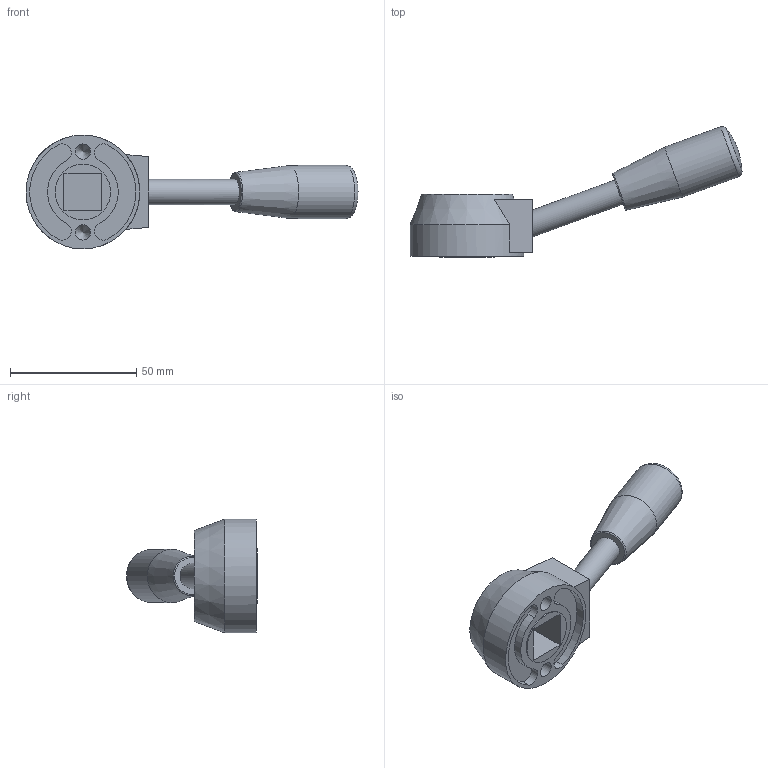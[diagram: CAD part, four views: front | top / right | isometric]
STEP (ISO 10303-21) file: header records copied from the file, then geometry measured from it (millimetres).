
FILE_DESCRIPTION( ( 'STEP AP203' ), '1' );
FILE_NAME( 'C:/Temp/Ganter_Step_05_03_2020/data/2_1/gn_512/gn_512_v/Control lever GN 512-45-V15.stp', '2020-03-05T11:51:43', ( 'License CC BY-ND 4.0' ), ( 'CADENAS' ), ' ', 'PARTsolutions', ' ' );
FILE_SCHEMA( ( 'CONFIG_CONTROL_DESIGN' ) );
Length unit declared in the file: millimetre
Products named in the file (1): _Control lever GN 512-45-V15
Bounding box: 131.34 x 51.82 x 45 mm (x, y, z)
Volume: 48878.5 mm3; surface area: 13937.5 mm2
Topology: 1 solids, 1 shells, 39 faces, 88 edges, 57 vertices
Faces by surface type: plane 17, cylinder 15, cone 4, torus 2, sphere 1
Full cylindrical faces by diameter (mm): 6 x2, 10 x1, 21 x1, 22 x1, 25 x1, 45 x1
Entity records: 1040 total; most frequent: DIRECTION 182, CARTESIAN_POINT 176, ORIENTED_EDGE 136, AXIS2_PLACEMENT_3D 76, EDGE_CURVE 68, EDGE_LOOP 59, VERTEX_POINT 54, FACE_OUTER_BOUND 48
